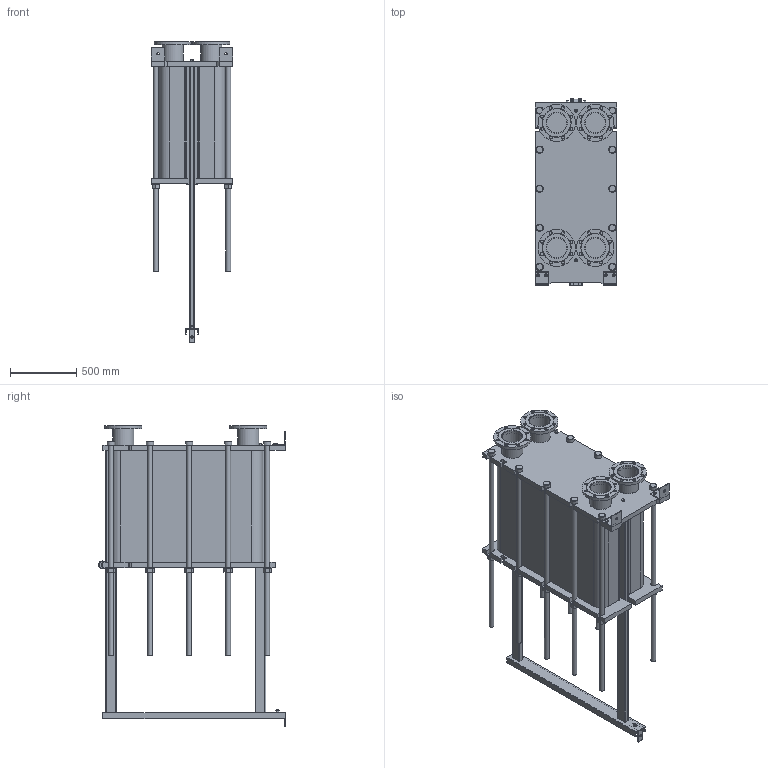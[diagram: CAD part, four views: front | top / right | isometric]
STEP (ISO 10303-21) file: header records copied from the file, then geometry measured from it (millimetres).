
FILE_DESCRIPTION(/* description */ (''),/* implementation_level */ '2;1');
FILE_NAME(/* name */ 'C:\Users\zhuro\Desktop\ENCO\TO\ЭН-041\ЭН-0,5-041-244-1.stp',/* time_stamp */ '2022-06-06T11:09:47+03:00',/* author */ ('zhuro'),/* organization */ (''),/* preprocessor_version */ 'ST-DEVELOPER v18.1',/* originating_system */ 'Autodesk Inventor 2022',/* authorisation */ '');
FILE_SCHEMA (('AUTOMOTIVE_DESIGN { 1 0 10303 214 3 1 1 }'));
Length unit declared in the file: millimetre
Products named in the file (1): ЭН-0,5-041-244-1
Bounding box: 610 x 1406.5 x 2270 mm (x, y, z)
Volume: 564052101.6 mm3; surface area: 12199593 mm2
Topology: 52 solids, 52 shells, 711 faces, 1696 edges, 1094 vertices
Faces by surface type: plane 487, cylinder 177, cone 41, torus 6
Full cylindrical faces by diameter (mm): 8 x4, 10 x2, 16 x8, 18 x3, 22 x32, 36 x24, 50 x1, 54 x10, 60 x12, 151 x4, 161 x8, 280 x4
Entity records: 22667 total; most frequent: CARTESIAN_POINT 5230, DIRECTION 3644, ORIENTED_EDGE 3392, EDGE_CURVE 1696, AXIS2_PLACEMENT_3D 1272, LINE 1100, VECTOR 1100, VERTEX_POINT 1094
